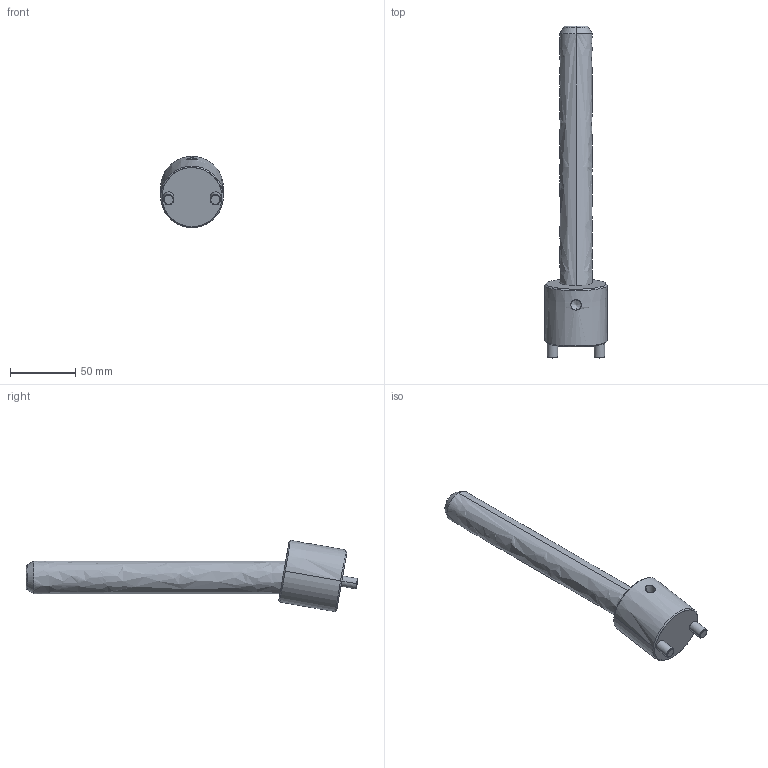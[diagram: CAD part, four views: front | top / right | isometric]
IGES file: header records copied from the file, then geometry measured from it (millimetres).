
Start section: START RECORD GO HERE.
Global section: file name: CI1025200.igs; native system: DASSAULT SYSTEMES CATIA V5 R20 - www.3ds.com; preprocessor: CATIA Version 5 Release 20 ; author: r.borello; organization: CFTORINO; date: 20190621.155851; units: millimetre
Bounding box: 48 x 254.61 x 54.74 mm (x, y, z)
Surface area: 33310.7 mm2 (no closed solid volume)
Topology: 0 solids, 0 shells, 39 faces, 162 edges, 160 vertices
Faces by surface type: revolution 32, plane 7
